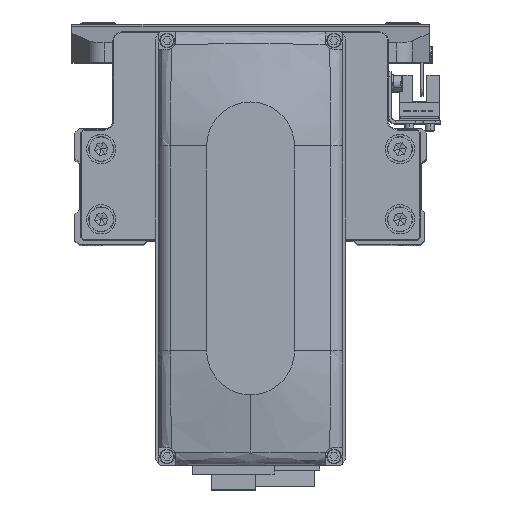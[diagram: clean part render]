
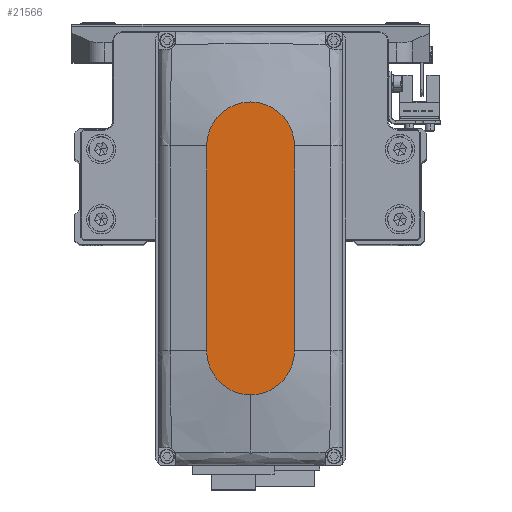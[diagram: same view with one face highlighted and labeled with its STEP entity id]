
A CAD part, top view. The second image highlights one B-rep face of the part: STEP entity #21566.
In plain terms, the highlighted planar face has unit normal (0, 0, 1).
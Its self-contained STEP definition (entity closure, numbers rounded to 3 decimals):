
#278 = CARTESIAN_POINT ( 'NONE',  ( 0., 0., 35. ) ) ;
#514 = CARTESIAN_POINT ( 'NONE',  ( 35., -15., 35. ) ) ;
#1355 = VERTEX_POINT ( 'NONE', #36124 ) ;
#2751 = DIRECTION ( 'NONE',  ( 1., 0., 0. ) ) ;
#3662 = CIRCLE ( 'NONE', #9146, 15. ) ;
#3856 = CARTESIAN_POINT ( 'NONE',  ( -35., 0., 35. ) ) ;
#7058 = DIRECTION ( 'NONE',  ( -1., 0., 0. ) ) ;
#7702 = DIRECTION ( 'NONE',  ( 0., 0., 1. ) ) ;
#8234 = ORIENTED_EDGE ( 'NONE', *, *, #18077, .T. ) ;
#8462 = DIRECTION ( 'NONE',  ( 1., 0., 0. ) ) ;
#9146 = AXIS2_PLACEMENT_3D ( 'NONE', #37025, #7702, #20769 ) ;
#10579 = EDGE_CURVE ( 'NONE', #17987, #26704, #24724, .T. ) ;
#11564 = ORIENTED_EDGE ( 'NONE', *, *, #10579, .T. ) ;
#12112 = CIRCLE ( 'NONE', #36026, 15. ) ;
#13358 = DIRECTION ( 'NONE',  ( 0., 0., 1. ) ) ;
#13749 = DIRECTION ( 'NONE',  ( 0., 0., 1. ) ) ;
#14989 = CARTESIAN_POINT ( 'NONE',  ( -35., -15., 35. ) ) ;
#16576 = FACE_OUTER_BOUND ( 'NONE', #29600, .T. ) ;
#16602 = EDGE_CURVE ( 'NONE', #1355, #19094, #3662, .T. ) ;
#16786 = CARTESIAN_POINT ( 'NONE',  ( -35., 15., 35. ) ) ;
#17987 = VERTEX_POINT ( 'NONE', #14989 ) ;
#18077 = EDGE_CURVE ( 'NONE', #26704, #1355, #18242, .T. ) ;
#18242 = CIRCLE ( 'NONE', #42167, 15. ) ;
#18960 = ORIENTED_EDGE ( 'NONE', *, *, #22684, .T. ) ;
#19040 = CARTESIAN_POINT ( 'NONE',  ( 35., 0., 35. ) ) ;
#19094 = VERTEX_POINT ( 'NONE', #21413 ) ;
#19198 = AXIS2_PLACEMENT_3D ( 'NONE', #278, #13358, #26405 ) ;
#20338 = VERTEX_POINT ( 'NONE', #16786 ) ;
#20769 = DIRECTION ( 'NONE',  ( 1., 0., 0. ) ) ;
#21046 = ORIENTED_EDGE ( 'NONE', *, *, #35511, .T. ) ;
#21413 = CARTESIAN_POINT ( 'NONE',  ( 35., 15., 35. ) ) ;
#21566 = ADVANCED_FACE ( 'NONE', ( #16576 ), #29619, .T. ) ;
#22684 = EDGE_CURVE ( 'NONE', #20338, #17987, #12112, .T. ) ;
#23086 = VECTOR ( 'NONE', #7058, 1000. ) ;
#23339 = LINE ( 'NONE', #36379, #23086 ) ;
#24724 = LINE ( 'NONE', #37780, #35958 ) ;
#26405 = DIRECTION ( 'NONE',  ( 1., 0., 0. ) ) ;
#26704 = VERTEX_POINT ( 'NONE', #514 ) ;
#26784 = DIRECTION ( 'NONE',  ( 1., 0., 0. ) ) ;
#29600 = EDGE_LOOP ( 'NONE', ( #21046, #18960, #11564, #8234, #42117 ) ) ;
#29619 = PLANE ( 'NONE',  #19198 ) ;
#32080 = DIRECTION ( 'NONE',  ( 0., 0., 1. ) ) ;
#35511 = EDGE_CURVE ( 'NONE', #19094, #20338, #23339, .T. ) ;
#35958 = VECTOR ( 'NONE', #8462, 1000. ) ;
#36026 = AXIS2_PLACEMENT_3D ( 'NONE', #3856, #13749, #26784 ) ;
#36124 = CARTESIAN_POINT ( 'NONE',  ( 50., 0., 35. ) ) ;
#36379 = CARTESIAN_POINT ( 'NONE',  ( -35., 15., 35. ) ) ;
#37025 = CARTESIAN_POINT ( 'NONE',  ( 35., 0., 35. ) ) ;
#37780 = CARTESIAN_POINT ( 'NONE',  ( -35., -15., 35. ) ) ;
#42117 = ORIENTED_EDGE ( 'NONE', *, *, #16602, .T. ) ;
#42167 = AXIS2_PLACEMENT_3D ( 'NONE', #19040, #32080, #2751 ) ;
